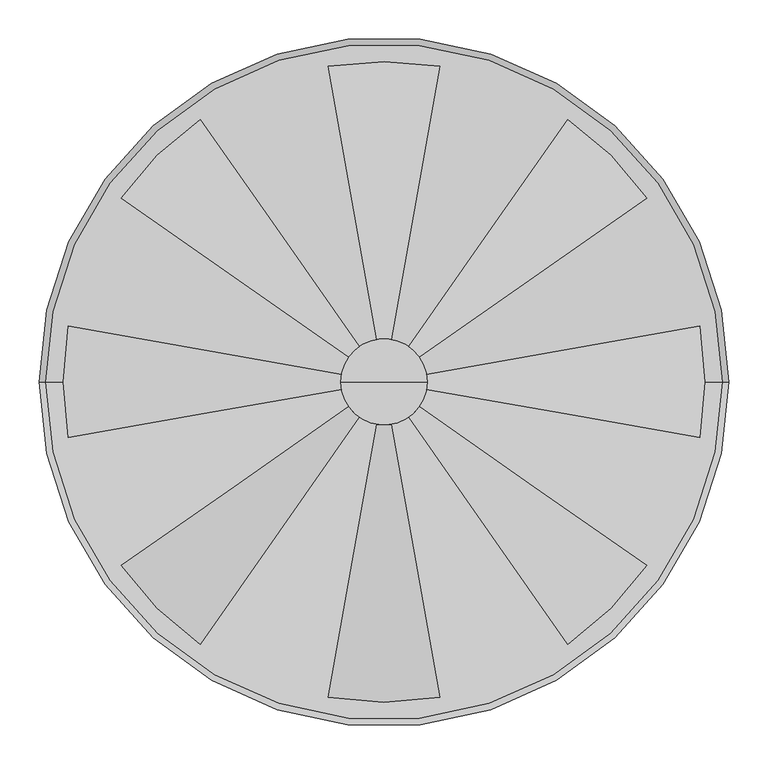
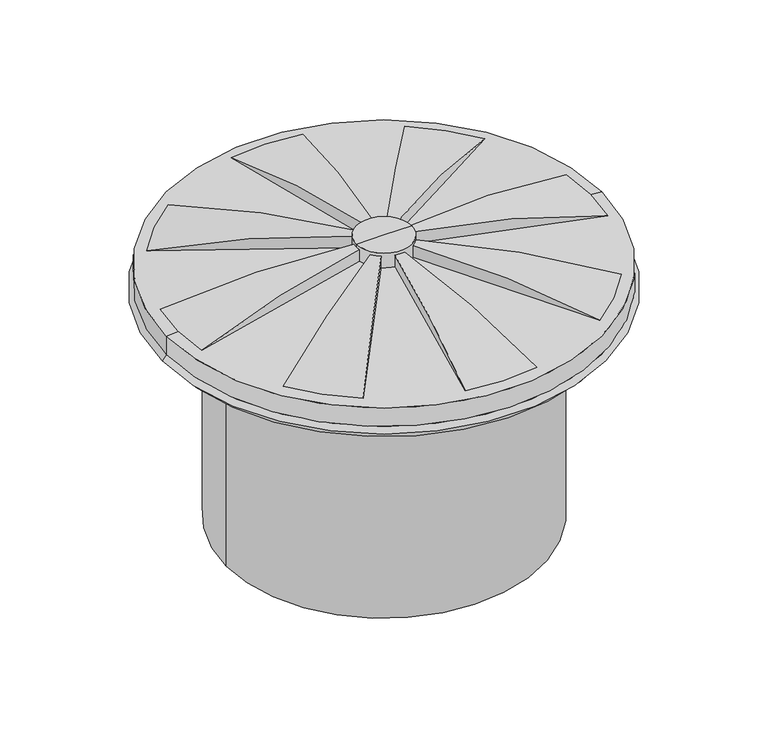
"""IFC4 building model written with IfcOpenShell, lengths in millimetres: proxy geometry, GRAF DW Tele Dome Shaft Maxi - Cover : DW Tele Dome Shaft Maxi - Cover."""

from ifc_helpers import new_model, si_unit, point, frame, origin, origin_2d, place, context, project, spatial, polyline, circle_curve, ellipse_curve, trimmed, segment, composite_curve, outline, extrude, source, transform, mapped, element, save
from ifc_brep_helpers import plane_surface, cylinder_surface, revolved_surface, advanced_brep


def specialty_equipment_90b081b5(model_context):
    return source(origin(), model_context, "Body", "SolidModel", [
        advanced_brep(
        [(0.0, 0.0, 0.0), (-12.499942, 0.0, 0.0), (12.499942, 0.0, 0.0), (-12.499942, 0.0, 29.998988), (12.499942, 0.0, 29.998988), (24.999942, 0.0, 34.998988), (-24.999942, 0.0, 34.998988), (0.0, 0.0, 52.4309306), (24.999942, 0.0, 29.998988), (-24.999942, 0.0, 29.998988)],
        [
            (0, 1),
            (1, 2, circle_curve(frame((0.0, 0.0, 0.0), z_axis=(0.0, 0.0, -1.0), x_axis=(-1.0, 0.0, 0.0)), 12.499942)),
            (2, 0),
            (2, 1, circle_curve(frame((0.0, 0.0, 0.0), z_axis=(0.0, 0.0, -1.0), x_axis=(-1.0, 0.0, 0.0)), 12.499942)),
            (1, 3),
            (3, 4, circle_curve(frame((0.0, 0.0, 29.998988), z_axis=(0.0, 0.0, -1.0), x_axis=(-1.0, 0.0, 0.0)), 12.499942)),
            (4, 2),
            (4, 3, circle_curve(frame((0.0, 0.0, 29.998988), z_axis=(0.0, 0.0, -1.0), x_axis=(-1.0, 0.0, 0.0)), 12.499942)),
            (5, 6, circle_curve(frame((0.0, 0.0, 34.998988), z_axis=(0.0, 0.0, 1.0), x_axis=(-1.0, 0.0, 0.0)), 24.999942)),
            (6, 7, circle_curve(frame((5.8e-05, 0.0, 25.7880989), z_axis=(0.0, 1.0, 0.0), x_axis=(1.0, 0.0, 0.0)), 26.6428316)),
            (7, 5, circle_curve(frame((-5.8e-05, 0.0, 25.7880989), z_axis=(0.0, 1.0, 0.0), x_axis=(-1.0, 0.0, 0.0)), 26.6428316)),
            (6, 5, circle_curve(frame((0.0, 0.0, 34.998988), z_axis=(0.0, 0.0, 1.0), x_axis=(-1.0, 0.0, 0.0)), 24.999942)),
            (8, 9, circle_curve(frame((0.0, 0.0, 29.998988), z_axis=(0.0, 0.0, 1.0), x_axis=(-1.0, 0.0, 0.0)), 24.999942)),
            (9, 6),
            (5, 8),
            (9, 8, circle_curve(frame((0.0, 0.0, 29.998988), z_axis=(0.0, 0.0, 1.0), x_axis=(-1.0, 0.0, 0.0)), 24.999942)),
            (3, 9),
            (8, 4),
        ],
        [
            plane_surface(frame((0.0, 0.0, 0.0), z_axis=(0.0, 0.0, -1.0), x_axis=(-1.0, 0.0, 0.0))),
            cylinder_surface(frame((0.0, 0.0, -10.0), z_axis=(0.0, 0.0, -1.0), x_axis=(-1.0, 0.0, 0.0)), 12.499942),
            revolved_surface(trimmed(ellipse_curve(frame((5.8e-05, 0.0, 25.7880989), z_axis=(0.0, -1.0, 0.0), x_axis=(1.0, 0.0, 0.0)), 26.6428316, 26.6428316), [point((0.0, 0.0, 52.4309306))], [point((-24.999942, 0.0, 34.998988))], True, "CARTESIAN"), (0.0, 0.0, -10.0), (0.0, 0.0, -1.0)),
            cylinder_surface(frame((0.0, 0.0, -10.0), z_axis=(0.0, 0.0, -1.0), x_axis=(-1.0, 0.0, 0.0)), 24.999942),
            plane_surface(frame((0.0, 0.0, 29.998988), z_axis=(0.0, 0.0, -1.0), x_axis=(-1.0, 0.0, 0.0))),
        ],
        [
            (0, [[1, 2, 3]]),
            (0, [[-3, 4, -1]]),
            (1, [[-2, 5, 6, 7]]),
            (1, [[-4, -7, 8, -5]]),
            (2, [[9, 10, 11]]),
            (2, [[12, -11, -10]]),
            (3, [[13, 14, -9, 15]]),
            (3, [[16, -15, -12, -14]]),
            (4, [[-6, 17, -13, 18]]),
            (4, [[-8, -18, -16, -17]]),
        ],
    ),
        extrude(outline(composite_curve([segment(trimmed(circle_curve(origin_2d(), 426.9962319), [point((-426.9962319, 0.0))], [point((426.9962319, 0.0))], False, "CARTESIAN"), True, "CONTINUOUS"), segment(trimmed(circle_curve(origin_2d(), 426.9962319), [point((426.9962319, 0.0))], [point((-426.9962319, 0.0))], False, "CARTESIAN"), True, "CONTINUOUS")], self_intersect=False), holes=[composite_curve([segment(trimmed(circle_curve(origin_2d(), 300.0), [point((-300.0, 0.0))], [point((300.0, 0.0))], True, "CARTESIAN"), True, "CONTINUOUS"), segment(trimmed(circle_curve(origin_2d(), 300.0), [point((300.0, 0.0))], [point((-300.0, 0.0))], True, "CARTESIAN"), True, "CONTINUOUS")], self_intersect=False)]), frame((0.0, 0.0, -14.9500624), z_axis=(0.0, 0.0, 1.0), x_axis=(1.0, 0.0, 0.0)), (0.0, 0.0, 1.0), 14.9500624),
        advanced_brep(
        [(0.0, 0.0, -14.9500624), (-300.0, 0.0, -14.9500624), (300.0, 0.0, -14.9500624), (300.0, 0.0, 0.0), (-300.0, 0.0, 0.0), (0.0, 0.0, 6.1740495)],
        [
            (0, 1),
            (1, 2, circle_curve(frame((0.0, 0.0, -14.9500624), z_axis=(0.0, 0.0, -1.0), x_axis=(-1.0, 0.0, 0.0)), 300.0)),
            (2, 0),
            (2, 1, circle_curve(frame((0.0, 0.0, -14.9500624), z_axis=(0.0, 0.0, -1.0), x_axis=(-1.0, 0.0, 0.0)), 300.0)),
            (3, 4, circle_curve(frame((0.0, 0.0, 0.0), z_axis=(0.0, 0.0, 1.0), x_axis=(-1.0, 0.0, 0.0)), 300.0)),
            (4, 5, circle_curve(frame((0.0, 0.0, -7285.4842816), z_axis=(0.0, 1.0, 0.0), x_axis=(1.0, 0.0, 0.0)), 7291.6583311)),
            (5, 3, circle_curve(frame((0.0, 0.0, -7285.4842816), z_axis=(0.0, 1.0, 0.0), x_axis=(-1.0, 0.0, 0.0)), 7291.6583311)),
            (4, 3, circle_curve(frame((0.0, 0.0, 0.0), z_axis=(0.0, 0.0, 1.0), x_axis=(-1.0, 0.0, 0.0)), 300.0)),
            (1, 4),
            (3, 2),
        ],
        [
            plane_surface(frame((0.0, 0.0, -14.9500624), z_axis=(0.0, 0.0, -1.0), x_axis=(-1.0, 0.0, 0.0))),
            revolved_surface(trimmed(ellipse_curve(frame((0.0, 0.0, -7285.4842816), z_axis=(0.0, -1.0, 0.0), x_axis=(1.0, 0.0, 0.0)), 7291.6583311, 7291.6583311), [point((0.0, 0.0, 6.1740495))], [point((-300.0, 0.0, 0.0))], True, "CARTESIAN"), (0.0, 0.0, -119.9500624), (0.0, 0.0, -1.0)),
            cylinder_surface(frame((0.0, 0.0, -119.9500624), z_axis=(0.0, 0.0, -1.0), x_axis=(-1.0, 0.0, 0.0)), 300.0),
        ],
        [
            (0, [[1, 2, 3]]),
            (0, [[-3, 4, -1]]),
            (1, [[5, 6, 7]]),
            (1, [[8, -7, -6]]),
            (2, [[-2, 9, -5, 10]]),
            (2, [[-4, -10, -8, -9]]),
        ],
    ),
        extrude(outline(composite_curve([segment(trimmed(circle_curve(origin_2d(), 313.0), [point((-313.0, 0.0))], [point((313.0, 0.0))], False, "CARTESIAN"), True, "CONTINUOUS"), segment(trimmed(circle_curve(origin_2d(), 313.0), [point((313.0, 0.0))], [point((-313.0, 0.0))], False, "CARTESIAN"), True, "CONTINUOUS")], self_intersect=False), holes=[composite_curve([segment(trimmed(circle_curve(origin_2d(), 300.0), [point((-300.0, 0.0))], [point((300.0, 0.0))], True, "CARTESIAN"), True, "CONTINUOUS"), segment(trimmed(circle_curve(origin_2d(), 300.0), [point((300.0, 0.0))], [point((-300.0, 0.0))], True, "CARTESIAN"), True, "CONTINUOUS")], self_intersect=False)]), frame((0.0, 0.0, -476.0), z_axis=(0.0, 0.0, 1.0), x_axis=(1.0, 0.0, 0.0)), (0.0, 0.0, 1.0), 461.0499376),
        advanced_brep(
        [(45.1316622, -31.6015301, 79.4947783), (45.1316622, -31.6015301, 103.3727596), (335.3019968, -234.7809858, 51.9853867), (31.6015301, -45.1316622, 79.4947783), (234.7809858, -335.3019968, 51.9853867), (31.6015301, -45.1316622, 103.3727596)],
        [
            (0, 1),
            (1, 2, circle_curve(frame((0.896195, -0.6275225, -1515.5033528), z_axis=(0.5735764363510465, 0.8191520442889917, 0.0), x_axis=(-0.8191520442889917, 0.5735764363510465, 0.0)), 1619.776538)),
            (2, 0, circle_curve(frame((0.0, 0.0, -2924.4026827), z_axis=(-0.5735764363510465, -0.8191520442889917, 0.0), x_axis=(-0.8191520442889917, 0.5735764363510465, 0.0)), 3004.4026827)),
            (3, 4, circle_curve(frame((0.0, 0.0, -2924.4026827), z_axis=(0.819152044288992, 0.5735764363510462, 0.0), x_axis=(-0.5735764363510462, 0.819152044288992, 0.0)), 3004.4026827)),
            (4, 5, circle_curve(frame((0.6275225, -0.896195, -1515.5033528), z_axis=(-0.819152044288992, -0.5735764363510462, 0.0), x_axis=(-0.5735764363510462, 0.819152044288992, 0.0)), 1619.776538)),
            (5, 3),
            (5, 1, circle_curve(frame((0.0, 0.0, 103.3727596), z_axis=(0.0, 0.0, 1.0), x_axis=(0.8191520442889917, -0.5735764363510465, 0.0)), 55.0955863)),
            (0, 3, circle_curve(frame((0.0, 0.0, 79.4947783), z_axis=(0.0, 0.0, -1.0), x_axis=(0.8191520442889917, -0.5735764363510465, 0.0)), 55.0955863)),
            (2, 4, circle_curve(frame((0.0, 0.0, 51.9853867), z_axis=(0.0, 0.0, -1.0), x_axis=(0.8191520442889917, -0.5735764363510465, 0.0)), 409.3281573)),
        ],
        [
            plane_surface(frame((0.0, 0.0, 180.0), z_axis=(0.5735764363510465, 0.8191520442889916, 0.0), x_axis=(0.8191520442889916, -0.5735764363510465, 0.0))),
            plane_surface(frame((0.0, 0.0, 180.0), z_axis=(-0.8191520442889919, -0.573576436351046, 0.0), x_axis=(0.573576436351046, -0.8191520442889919, 0.0))),
            revolved_surface(polyline([(45.131662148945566, -31.60153004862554, 79.4947783), (45.131662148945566, -31.60153004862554, 103.3727596)]), (0.0, 0.0, 180.0), (0.0, 0.0, -1.0)),
            revolved_surface(trimmed(ellipse_curve(frame((0.0, 0.0, -2924.4026827), z_axis=(-0.5735764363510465, -0.8191520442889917, 0.0), x_axis=(-0.8191520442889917, 0.5735764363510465, 0.0)), 3004.4026827, 3004.4026827), [point((335.3019968, -234.7809858, 51.9853867))], [point((45.1316622, -31.6015301, 79.4947783))], True, "CARTESIAN"), (0.0, 0.0, 180.0), (0.0, 0.0, -1.0)),
            revolved_surface(trimmed(ellipse_curve(frame((0.896195, -0.6275225, -1515.5033528), z_axis=(0.5735764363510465, 0.8191520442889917, 0.0), x_axis=(-0.8191520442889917, 0.5735764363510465, 0.0)), 1619.776538, 1619.776538), [point((45.1316622, -31.6015301, 103.3727596))], [point((335.3019968, -234.7809858, 51.9853867))], True, "CARTESIAN"), (0.0, 0.0, 180.0), (0.0, 0.0, -1.0)),
        ],
        [
            (0, [[1, 2, 3]]),
            (1, [[4, 5, 6]]),
            (2, [[7, -1, 8, -6]]),
            (3, [[-8, -3, 9, -4]]),
            (4, [[-9, -2, -7, -5]]),
        ],
    ),
        advanced_brep(
        [(-31.6015301, 45.1316622, 79.4947783), (-234.7809858, 335.3019968, 51.9853867), (-31.6015301, 45.1316622, 103.3727596), (-45.1316622, 31.6015301, 79.4947783), (-45.1316622, 31.6015301, 103.3727596), (-335.3019968, 234.7809858, 51.9853867)],
        [
            (0, 1, circle_curve(frame((0.0, 0.0, -2924.4026827), z_axis=(-0.8191520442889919, -0.5735764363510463, 0.0), x_axis=(0.5735764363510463, -0.8191520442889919, 0.0)), 3004.4026827)),
            (1, 2, circle_curve(frame((-0.6275225, 0.896195, -1515.5033528), z_axis=(0.8191520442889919, 0.5735764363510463, 0.0), x_axis=(0.5735764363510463, -0.8191520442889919, 0.0)), 1619.776538)),
            (2, 0),
            (3, 4),
            (4, 5, circle_curve(frame((-0.896195, 0.6275225, -1515.5033528), z_axis=(-0.5735764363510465, -0.8191520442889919, 0.0), x_axis=(0.8191520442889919, -0.5735764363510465, 0.0)), 1619.776538)),
            (5, 3, circle_curve(frame((0.0, 0.0, -2924.4026827), z_axis=(0.5735764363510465, 0.8191520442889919, 0.0), x_axis=(0.8191520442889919, -0.5735764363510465, 0.0)), 3004.4026827)),
            (3, 0, circle_curve(frame((0.0, 0.0, 79.4947783), z_axis=(0.0, 0.0, -1.0), x_axis=(-0.5735764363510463, 0.8191520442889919, 0.0)), 55.0955863)),
            (2, 4, circle_curve(frame((0.0, 0.0, 103.3727596), z_axis=(0.0, 0.0, 1.0), x_axis=(-0.5735764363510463, 0.8191520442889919, 0.0)), 55.0955863)),
            (5, 1, circle_curve(frame((0.0, 0.0, 51.9853867), z_axis=(0.0, 0.0, -1.0), x_axis=(-0.5735764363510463, 0.8191520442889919, 0.0)), 409.3281573)),
        ],
        [
            plane_surface(frame((0.0, 0.0, 180.0), z_axis=(0.8191520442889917, 0.5735764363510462, 0.0), x_axis=(-0.5735764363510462, 0.8191520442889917, 0.0))),
            plane_surface(frame((0.0, 0.0, 180.0), z_axis=(-0.5735764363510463, -0.8191520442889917, 0.0), x_axis=(-0.8191520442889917, 0.5735764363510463, 0.0))),
            revolved_surface(polyline([(-31.601530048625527, 45.13166214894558, 103.3727596), (-31.601530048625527, 45.13166214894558, 79.4947783)]), (0.0, 0.0, 180.0), (0.0, 0.0, 1.0)),
            revolved_surface(trimmed(ellipse_curve(frame((0.0, 0.0, -2924.4026827), z_axis=(-0.8191520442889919, -0.5735764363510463, 0.0), x_axis=(0.5735764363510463, -0.8191520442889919, 0.0)), 3004.4026827, 3004.4026827), [point((-31.6015301, 45.1316622, 79.4947783))], [point((-234.7809858, 335.3019968, 51.9853867))], True, "CARTESIAN"), (0.0, 0.0, 180.0), (0.0, 0.0, 1.0)),
            revolved_surface(trimmed(ellipse_curve(frame((-0.6275225, 0.896195, -1515.5033528), z_axis=(0.8191520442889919, 0.5735764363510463, 0.0), x_axis=(0.5735764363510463, -0.8191520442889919, 0.0)), 1619.776538, 1619.776538), [point((-234.7809858, 335.3019968, 51.9853867))], [point((-31.6015301, 45.1316622, 103.3727596))], True, "CARTESIAN"), (0.0, 0.0, 180.0), (0.0, 0.0, 1.0)),
        ],
        [
            (0, [[1, 2, 3]]),
            (1, [[4, 5, 6]]),
            (2, [[7, -3, 8, -4]]),
            (3, [[9, -1, -7, -6]]),
            (4, [[-8, -2, -9, -5]]),
        ],
    ),
        advanced_brep(
        [(-45.1316622, -31.6015301, 79.4947783), (-335.3019968, -234.7809858, 51.9853867), (-45.1316622, -31.6015301, 103.3727596), (-31.6015301, -45.1316622, 79.4947783), (-31.6015301, -45.1316622, 103.3727596), (-234.7809858, -335.3019968, 51.9853867)],
        [
            (0, 1, circle_curve(frame((0.0, 0.0, -2924.4026827), z_axis=(0.5735764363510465, -0.8191520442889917, 0.0), x_axis=(0.8191520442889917, 0.5735764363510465, 0.0)), 3004.4026827)),
            (1, 2, circle_curve(frame((-0.896195, -0.6275225, -1515.5033528), z_axis=(-0.5735764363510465, 0.8191520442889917, 0.0), x_axis=(0.8191520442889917, 0.5735764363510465, 0.0)), 1619.776538)),
            (2, 0),
            (3, 4),
            (4, 5, circle_curve(frame((-0.6275225, -0.896195, -1515.5033528), z_axis=(0.819152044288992, -0.5735764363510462, 0.0), x_axis=(0.5735764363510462, 0.819152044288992, 0.0)), 1619.776538)),
            (5, 3, circle_curve(frame((0.0, 0.0, -2924.4026827), z_axis=(-0.819152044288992, 0.5735764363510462, 0.0), x_axis=(0.5735764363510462, 0.819152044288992, 0.0)), 3004.4026827)),
            (3, 0, circle_curve(frame((0.0, 0.0, 79.4947783), z_axis=(0.0, 0.0, -1.0), x_axis=(-0.8191520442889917, -0.5735764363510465, 0.0)), 55.0955863)),
            (2, 4, circle_curve(frame((0.0, 0.0, 103.3727596), z_axis=(0.0, 0.0, 1.0), x_axis=(-0.8191520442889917, -0.5735764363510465, 0.0)), 55.0955863)),
            (5, 1, circle_curve(frame((0.0, 0.0, 51.9853867), z_axis=(0.0, 0.0, -1.0), x_axis=(-0.8191520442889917, -0.5735764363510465, 0.0)), 409.3281573)),
        ],
        [
            plane_surface(frame((0.0, 0.0, 180.0), z_axis=(-0.5735764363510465, 0.8191520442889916, 0.0), x_axis=(-0.8191520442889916, -0.5735764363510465, 0.0))),
            plane_surface(frame((0.0, 0.0, 180.0), z_axis=(0.8191520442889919, -0.573576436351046, 0.0), x_axis=(-0.573576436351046, -0.8191520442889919, 0.0))),
            revolved_surface(polyline([(-45.131662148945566, -31.60153004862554, 103.3727596), (-45.131662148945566, -31.60153004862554, 79.4947783)]), (0.0, 0.0, 180.0), (0.0, 0.0, 1.0)),
            revolved_surface(trimmed(ellipse_curve(frame((0.0, 0.0, -2924.4026827), z_axis=(0.5735764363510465, -0.8191520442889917, 0.0), x_axis=(0.8191520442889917, 0.5735764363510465, 0.0)), 3004.4026827, 3004.4026827), [point((-45.1316622, -31.6015301, 79.4947783))], [point((-335.3019968, -234.7809858, 51.9853867))], True, "CARTESIAN"), (0.0, 0.0, 180.0), (0.0, 0.0, 1.0)),
            revolved_surface(trimmed(ellipse_curve(frame((-0.896195, -0.6275225, -1515.5033528), z_axis=(-0.5735764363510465, 0.8191520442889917, 0.0), x_axis=(0.8191520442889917, 0.5735764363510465, 0.0)), 1619.776538, 1619.776538), [point((-335.3019968, -234.7809858, 51.9853867))], [point((-45.1316622, -31.6015301, 103.3727596))], True, "CARTESIAN"), (0.0, 0.0, 180.0), (0.0, 0.0, 1.0)),
        ],
        [
            (0, [[1, 2, 3]]),
            (1, [[4, 5, 6]]),
            (2, [[7, -3, 8, -4]]),
            (3, [[9, -1, -7, -6]]),
            (4, [[-8, -2, -9, -5]]),
        ],
    ),
        advanced_brep(
        [(31.6015301, 45.1316622, 79.4947783), (31.6015301, 45.1316622, 103.3727596), (234.7809858, 335.3019968, 51.9853867), (45.1316622, 31.6015301, 79.4947783), (335.3019968, 234.7809858, 51.9853867), (45.1316622, 31.6015301, 103.3727596)],
        [
            (0, 1),
            (1, 2, circle_curve(frame((0.6275225, 0.896195, -1515.5033528), z_axis=(-0.8191520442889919, 0.5735764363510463, 0.0), x_axis=(-0.5735764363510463, -0.8191520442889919, 0.0)), 1619.776538)),
            (2, 0, circle_curve(frame((0.0, 0.0, -2924.4026827), z_axis=(0.8191520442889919, -0.5735764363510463, 0.0), x_axis=(-0.5735764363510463, -0.8191520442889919, 0.0)), 3004.4026827)),
            (3, 4, circle_curve(frame((0.0, 0.0, -2924.4026827), z_axis=(-0.5735764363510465, 0.8191520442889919, 0.0), x_axis=(-0.8191520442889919, -0.5735764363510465, 0.0)), 3004.4026827)),
            (4, 5, circle_curve(frame((0.896195, 0.6275225, -1515.5033528), z_axis=(0.5735764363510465, -0.8191520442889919, 0.0), x_axis=(-0.8191520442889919, -0.5735764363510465, 0.0)), 1619.776538)),
            (5, 3),
            (5, 1, circle_curve(frame((0.0, 0.0, 103.3727596), z_axis=(0.0, 0.0, 1.0), x_axis=(0.5735764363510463, 0.8191520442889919, 0.0)), 55.0955863)),
            (0, 3, circle_curve(frame((0.0, 0.0, 79.4947783), z_axis=(0.0, 0.0, -1.0), x_axis=(0.5735764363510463, 0.8191520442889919, 0.0)), 55.0955863)),
            (2, 4, circle_curve(frame((0.0, 0.0, 51.9853867), z_axis=(0.0, 0.0, -1.0), x_axis=(0.5735764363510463, 0.8191520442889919, 0.0)), 409.3281573)),
        ],
        [
            plane_surface(frame((0.0, 0.0, 180.0), z_axis=(-0.8191520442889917, 0.5735764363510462, 0.0), x_axis=(0.5735764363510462, 0.8191520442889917, 0.0))),
            plane_surface(frame((0.0, 0.0, 180.0), z_axis=(0.5735764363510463, -0.8191520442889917, 0.0), x_axis=(0.8191520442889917, 0.5735764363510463, 0.0))),
            revolved_surface(polyline([(31.601530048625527, 45.13166214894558, 79.4947783), (31.601530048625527, 45.13166214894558, 103.3727596)]), (0.0, 0.0, 180.0), (0.0, 0.0, -1.0)),
            revolved_surface(trimmed(ellipse_curve(frame((0.0, 0.0, -2924.4026827), z_axis=(0.8191520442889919, -0.5735764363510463, 0.0), x_axis=(-0.5735764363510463, -0.8191520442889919, 0.0)), 3004.4026827, 3004.4026827), [point((234.7809858, 335.3019968, 51.9853867))], [point((31.6015301, 45.1316622, 79.4947783))], True, "CARTESIAN"), (0.0, 0.0, 180.0), (0.0, 0.0, -1.0)),
            revolved_surface(trimmed(ellipse_curve(frame((0.6275225, 0.896195, -1515.5033528), z_axis=(-0.8191520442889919, 0.5735764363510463, 0.0), x_axis=(-0.5735764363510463, -0.8191520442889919, 0.0)), 1619.776538, 1619.776538), [point((31.6015301, 45.1316622, 103.3727596))], [point((234.7809858, 335.3019968, 51.9853867))], True, "CARTESIAN"), (0.0, 0.0, 180.0), (0.0, 0.0, -1.0)),
        ],
        [
            (0, [[1, 2, 3]]),
            (1, [[4, 5, 6]]),
            (2, [[7, -1, 8, -6]]),
            (3, [[-8, -3, 9, -4]]),
            (4, [[-9, -2, -7, -5]]),
        ],
    ),
        advanced_brep(
        [(-9.5672482, -54.2585606, 79.4947783), (-71.0790886, -403.1095428, 51.9853867), (-9.5672482, -54.2585606, 103.3727596), (9.5672482, -54.2585606, 79.4947783), (9.5672482, -54.2585606, 103.3727596), (71.0790886, -403.1095428, 51.9853867)],
        [
            (0, 1, circle_curve(frame((0.0, 0.0, -2924.4026827), z_axis=(0.984807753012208, -0.1736481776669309, 0.0), x_axis=(0.1736481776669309, 0.984807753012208, 0.0)), 3004.4026827)),
            (1, 2, circle_curve(frame((-0.1899802, -1.077431, -1515.5033528), z_axis=(-0.984807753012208, 0.1736481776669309, 0.0), x_axis=(0.1736481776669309, 0.984807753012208, 0.0)), 1619.776538)),
            (2, 0),
            (3, 4),
            (4, 5, circle_curve(frame((0.1899802, -1.077431, -1515.5033528), z_axis=(0.9848077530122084, 0.17364817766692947, 0.0), x_axis=(-0.17364817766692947, 0.9848077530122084, 0.0)), 1619.776538)),
            (5, 3, circle_curve(frame((0.0, 0.0, -2924.4026827), z_axis=(-0.9848077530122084, -0.17364817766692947, 0.0), x_axis=(-0.17364817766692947, 0.9848077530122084, 0.0)), 3004.4026827)),
            (3, 0, circle_curve(frame((0.0, 0.0, 79.4947783), z_axis=(0.0, 0.0, -1.0), x_axis=(-0.1736481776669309, -0.984807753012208, 0.0)), 55.0955863)),
            (2, 4, circle_curve(frame((0.0, 0.0, 103.3727596), z_axis=(0.0, 0.0, 1.0), x_axis=(-0.1736481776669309, -0.984807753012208, 0.0)), 55.0955863)),
            (5, 1, circle_curve(frame((0.0, 0.0, 51.9853867), z_axis=(0.0, 0.0, -1.0), x_axis=(-0.1736481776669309, -0.984807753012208, 0.0)), 409.3281573)),
        ],
        [
            plane_surface(frame((0.0, 0.0, 180.0), z_axis=(-0.984807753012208, 0.1736481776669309, 0.0), x_axis=(-0.1736481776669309, -0.984807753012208, 0.0))),
            plane_surface(frame((0.0, 0.0, 180.0), z_axis=(0.9848077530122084, 0.17364817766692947, 0.0), x_axis=(0.17364817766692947, -0.9848077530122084, 0.0))),
            revolved_surface(polyline([(-9.567248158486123, -54.258560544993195, 103.3727596), (-9.567248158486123, -54.258560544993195, 79.4947783)]), (0.0, 0.0, 180.0), (0.0, 0.0, 1.0)),
            revolved_surface(trimmed(ellipse_curve(frame((0.0, 0.0, -2924.4026827), z_axis=(0.984807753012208, -0.1736481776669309, 0.0), x_axis=(0.1736481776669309, 0.984807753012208, 0.0)), 3004.4026827, 3004.4026827), [point((-9.5672482, -54.2585606, 79.4947783))], [point((-71.0790886, -403.1095428, 51.9853867))], True, "CARTESIAN"), (0.0, 0.0, 180.0), (0.0, 0.0, 1.0)),
            revolved_surface(trimmed(ellipse_curve(frame((-0.1899802, -1.077431, -1515.5033528), z_axis=(-0.984807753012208, 0.1736481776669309, 0.0), x_axis=(0.1736481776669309, 0.984807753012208, 0.0)), 1619.776538, 1619.776538), [point((-71.0790886, -403.1095428, 51.9853867))], [point((-9.5672482, -54.2585606, 103.3727596))], True, "CARTESIAN"), (0.0, 0.0, 180.0), (0.0, 0.0, 1.0)),
        ],
        [
            (0, [[1, 2, 3]]),
            (1, [[4, 5, 6]]),
            (2, [[7, -3, 8, -4]]),
            (3, [[9, -1, -7, -6]]),
            (4, [[-8, -2, -9, -5]]),
        ],
    ),
        advanced_brep(
        [(-9.5672482, 54.2585606, 79.4947783), (-9.5672482, 54.2585606, 103.3727596), (-71.0790886, 403.1095428, 51.9853867), (9.5672482, 54.2585606, 79.4947783), (71.0790886, 403.1095428, 51.9853867), (9.5672482, 54.2585606, 103.3727596)],
        [
            (0, 1),
            (1, 2, circle_curve(frame((-0.1899802, 1.077431, -1515.5033528), z_axis=(-0.9848077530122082, -0.17364817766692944, 0.0), x_axis=(0.17364817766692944, -0.9848077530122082, 0.0)), 1619.776538)),
            (2, 0, circle_curve(frame((0.0, 0.0, -2924.4026827), z_axis=(0.9848077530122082, 0.17364817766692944, 0.0), x_axis=(0.17364817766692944, -0.9848077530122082, 0.0)), 3004.4026827)),
            (3, 4, circle_curve(frame((0.0, 0.0, -2924.4026827), z_axis=(-0.984807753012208, 0.1736481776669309, 0.0), x_axis=(-0.1736481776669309, -0.984807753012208, 0.0)), 3004.4026827)),
            (4, 5, circle_curve(frame((0.1899802, 1.077431, -1515.5033528), z_axis=(0.984807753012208, -0.1736481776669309, 0.0), x_axis=(-0.1736481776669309, -0.984807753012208, 0.0)), 1619.776538)),
            (5, 3),
            (5, 1, circle_curve(frame((0.0, 0.0, 103.3727596), z_axis=(0.0, 0.0, 1.0), x_axis=(-0.17364817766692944, 0.9848077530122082, 0.0)), 55.0955863)),
            (0, 3, circle_curve(frame((0.0, 0.0, 79.4947783), z_axis=(0.0, 0.0, -1.0), x_axis=(-0.17364817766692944, 0.9848077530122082, 0.0)), 55.0955863)),
            (2, 4, circle_curve(frame((0.0, 0.0, 51.9853867), z_axis=(0.0, 0.0, -1.0), x_axis=(-0.17364817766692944, 0.9848077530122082, 0.0)), 409.3281573)),
        ],
        [
            plane_surface(frame((0.0, 0.0, 180.0), z_axis=(-0.9848077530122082, -0.17364817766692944, 0.0), x_axis=(-0.17364817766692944, 0.9848077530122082, 0.0))),
            plane_surface(frame((0.0, 0.0, 180.0), z_axis=(0.984807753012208, -0.1736481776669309, 0.0), x_axis=(0.1736481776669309, 0.984807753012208, 0.0))),
            revolved_surface(polyline([(-9.567248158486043, 54.2585605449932, 79.4947783), (-9.567248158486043, 54.2585605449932, 103.3727596)]), (0.0, 0.0, 180.0), (0.0, 0.0, -1.0)),
            revolved_surface(trimmed(ellipse_curve(frame((0.0, 0.0, -2924.4026827), z_axis=(0.9848077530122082, 0.17364817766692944, 0.0), x_axis=(0.17364817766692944, -0.9848077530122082, 0.0)), 3004.4026827, 3004.4026827), [point((-71.0790886, 403.1095428, 51.9853867))], [point((-9.5672482, 54.2585606, 79.4947783))], True, "CARTESIAN"), (0.0, 0.0, 180.0), (0.0, 0.0, -1.0)),
            revolved_surface(trimmed(ellipse_curve(frame((-0.1899802, 1.077431, -1515.5033528), z_axis=(-0.9848077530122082, -0.17364817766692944, 0.0), x_axis=(0.17364817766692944, -0.9848077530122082, 0.0)), 1619.776538, 1619.776538), [point((-9.5672482, 54.2585606, 103.3727596))], [point((-71.0790886, 403.1095428, 51.9853867))], True, "CARTESIAN"), (0.0, 0.0, 180.0), (0.0, 0.0, -1.0)),
        ],
        [
            (0, [[1, 2, 3]]),
            (1, [[4, 5, 6]]),
            (2, [[7, -1, 8, -6]]),
            (3, [[-8, -3, 9, -4]]),
            (4, [[-9, -2, -7, -5]]),
        ],
    ),
        advanced_brep(
        [(54.2585606, -9.5672482, 79.4947783), (403.1095428, -71.0790886, 51.9853867), (54.2585606, -9.5672482, 103.3727596), (54.2585606, 9.5672482, 79.4947783), (54.2585606, 9.5672482, 103.3727596), (403.1095428, 71.0790886, 51.9853867)],
        [
            (0, 1, circle_curve(frame((0.0, 0.0, -2924.4026827), z_axis=(0.17364817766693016, 0.9848077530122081, 0.0), x_axis=(-0.9848077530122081, 0.17364817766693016, 0.0)), 3004.4026827)),
            (1, 2, circle_curve(frame((1.077431, -0.1899802, -1515.5033528), z_axis=(-0.17364817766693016, -0.9848077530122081, 0.0), x_axis=(-0.9848077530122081, 0.17364817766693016, 0.0)), 1619.776538)),
            (2, 0),
            (3, 4),
            (4, 5, circle_curve(frame((1.077431, 0.1899802, -1515.5033528), z_axis=(-0.1736481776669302, 0.9848077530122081, 0.0), x_axis=(-0.9848077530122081, -0.1736481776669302, 0.0)), 1619.776538)),
            (5, 3, circle_curve(frame((0.0, 0.0, -2924.4026827), z_axis=(0.1736481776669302, -0.9848077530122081, 0.0), x_axis=(-0.9848077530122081, -0.1736481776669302, 0.0)), 3004.4026827)),
            (3, 0, circle_curve(frame((0.0, 0.0, 79.4947783), z_axis=(0.0, 0.0, -1.0), x_axis=(0.9848077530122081, -0.17364817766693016, 0.0)), 55.0955863)),
            (2, 4, circle_curve(frame((0.0, 0.0, 103.3727596), z_axis=(0.0, 0.0, 1.0), x_axis=(0.9848077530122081, -0.17364817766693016, 0.0)), 55.0955863)),
            (5, 1, circle_curve(frame((0.0, 0.0, 51.9853867), z_axis=(0.0, 0.0, -1.0), x_axis=(0.9848077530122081, -0.17364817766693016, 0.0)), 409.3281573)),
        ],
        [
            plane_surface(frame((0.0, 0.0, 180.0), z_axis=(-0.17364817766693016, -0.9848077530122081, 0.0), x_axis=(0.9848077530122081, -0.17364817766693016, 0.0))),
            plane_surface(frame((0.0, 0.0, 180.0), z_axis=(-0.1736481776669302, 0.9848077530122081, 0.0), x_axis=(0.9848077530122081, 0.1736481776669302, 0.0))),
            revolved_surface(polyline([(54.2585605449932, -9.567248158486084, 103.3727596), (54.2585605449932, -9.567248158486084, 79.4947783)]), (0.0, 0.0, 180.0), (0.0, 0.0, 1.0)),
            revolved_surface(trimmed(ellipse_curve(frame((0.0, 0.0, -2924.4026827), z_axis=(0.17364817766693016, 0.9848077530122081, 0.0), x_axis=(-0.9848077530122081, 0.17364817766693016, 0.0)), 3004.4026827, 3004.4026827), [point((54.2585606, -9.5672482, 79.4947783))], [point((403.1095428, -71.0790886, 51.9853867))], True, "CARTESIAN"), (0.0, 0.0, 180.0), (0.0, 0.0, 1.0)),
            revolved_surface(trimmed(ellipse_curve(frame((1.077431, -0.1899802, -1515.5033528), z_axis=(-0.17364817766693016, -0.9848077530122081, 0.0), x_axis=(-0.9848077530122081, 0.17364817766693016, 0.0)), 1619.776538, 1619.776538), [point((403.1095428, -71.0790886, 51.9853867))], [point((54.2585606, -9.5672482, 103.3727596))], True, "CARTESIAN"), (0.0, 0.0, 180.0), (0.0, 0.0, 1.0)),
        ],
        [
            (0, [[1, 2, 3]]),
            (1, [[4, 5, 6]]),
            (2, [[7, -3, 8, -4]]),
            (3, [[9, -1, -7, -6]]),
            (4, [[-8, -2, -9, -5]]),
        ],
    ),
        advanced_brep(
        [(-54.2585606, -9.5672482, 79.4947783), (-54.2585606, -9.5672482, 103.3727596), (-403.1095428, -71.0790886, 51.9853867), (-54.2585606, 9.5672482, 79.4947783), (-403.1095428, 71.0790886, 51.9853867), (-54.2585606, 9.5672482, 103.3727596)],
        [
            (0, 1),
            (1, 2, circle_curve(frame((-1.077431, -0.1899802, -1515.5033528), z_axis=(0.17364817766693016, -0.9848077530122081, 0.0), x_axis=(0.9848077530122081, 0.17364817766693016, 0.0)), 1619.776538)),
            (2, 0, circle_curve(frame((0.0, 0.0, -2924.4026827), z_axis=(-0.17364817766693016, 0.9848077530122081, 0.0), x_axis=(0.9848077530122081, 0.17364817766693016, 0.0)), 3004.4026827)),
            (3, 4, circle_curve(frame((0.0, 0.0, -2924.4026827), z_axis=(-0.1736481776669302, -0.9848077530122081, 0.0), x_axis=(0.9848077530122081, -0.1736481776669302, 0.0)), 3004.4026827)),
            (4, 5, circle_curve(frame((-1.077431, 0.1899802, -1515.5033528), z_axis=(0.1736481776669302, 0.9848077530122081, 0.0), x_axis=(0.9848077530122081, -0.1736481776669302, 0.0)), 1619.776538)),
            (5, 3),
            (5, 1, circle_curve(frame((0.0, 0.0, 103.3727596), z_axis=(0.0, 0.0, 1.0), x_axis=(-0.9848077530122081, -0.17364817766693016, 0.0)), 55.0955863)),
            (0, 3, circle_curve(frame((0.0, 0.0, 79.4947783), z_axis=(0.0, 0.0, -1.0), x_axis=(-0.9848077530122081, -0.17364817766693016, 0.0)), 55.0955863)),
            (2, 4, circle_curve(frame((0.0, 0.0, 51.9853867), z_axis=(0.0, 0.0, -1.0), x_axis=(-0.9848077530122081, -0.17364817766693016, 0.0)), 409.3281573)),
        ],
        [
            plane_surface(frame((0.0, 0.0, 180.0), z_axis=(0.17364817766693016, -0.9848077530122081, 0.0), x_axis=(-0.9848077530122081, -0.17364817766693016, 0.0))),
            plane_surface(frame((0.0, 0.0, 180.0), z_axis=(0.1736481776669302, 0.9848077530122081, 0.0), x_axis=(-0.9848077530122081, 0.1736481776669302, 0.0))),
            revolved_surface(polyline([(-54.2585605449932, -9.567248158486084, 79.4947783), (-54.2585605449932, -9.567248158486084, 103.3727596)]), (0.0, 0.0, 180.0), (0.0, 0.0, -1.0)),
            revolved_surface(trimmed(ellipse_curve(frame((0.0, 0.0, -2924.4026827), z_axis=(-0.17364817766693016, 0.9848077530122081, 0.0), x_axis=(0.9848077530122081, 0.17364817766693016, 0.0)), 3004.4026827, 3004.4026827), [point((-403.1095428, -71.0790886, 51.9853867))], [point((-54.2585606, -9.5672482, 79.4947783))], True, "CARTESIAN"), (0.0, 0.0, 180.0), (0.0, 0.0, -1.0)),
            revolved_surface(trimmed(ellipse_curve(frame((-1.077431, -0.1899802, -1515.5033528), z_axis=(0.17364817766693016, -0.9848077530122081, 0.0), x_axis=(0.9848077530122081, 0.17364817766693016, 0.0)), 1619.776538, 1619.776538), [point((-54.2585606, -9.5672482, 103.3727596))], [point((-403.1095428, -71.0790886, 51.9853867))], True, "CARTESIAN"), (0.0, 0.0, 180.0), (0.0, 0.0, -1.0)),
        ],
        [
            (0, [[1, 2, 3]]),
            (1, [[4, 5, 6]]),
            (2, [[7, -1, 8, -6]]),
            (3, [[-8, -3, 9, -4]]),
            (4, [[-9, -2, -7, -5]]),
        ],
    ),
        advanced_brep(
        [(440.3909261, 0.0, 0.0), (-440.3909261, 0.0, 0.0), (-431.999762, 0.0, 10.0002), (431.999762, 0.0, 10.0002), (426.9962319, 0.0, 0.0), (-426.9962319, 0.0, 0.0), (55.0, 0.0, 110.0), (-55.0, 0.0, 110.0), (0.0, 0.0, 110.0), (55.0, 0.0, 79.49653), (-55.0, 0.0, 79.49653), (431.999762, 0.0, 48.7793981), (-431.999762, 0.0, 48.7793981), (426.9962319, 0.0, 44.4507443), (-426.9962319, 0.0, 44.4507443), (0.0, 0.0, 75.0)],
        [
            (0, 1, circle_curve(frame((0.0, 0.0, 0.0), z_axis=(0.0, 0.0, 1.0), x_axis=(-1.0, 0.0, 0.0)), 440.3909261)),
            (1, 2),
            (2, 3, circle_curve(frame((0.0, 0.0, 10.0002), z_axis=(0.0, 0.0, -1.0), x_axis=(-1.0, 0.0, 0.0)), 431.999762)),
            (3, 0),
            (1, 0, circle_curve(frame((0.0, 0.0, 0.0), z_axis=(0.0, 0.0, 1.0), x_axis=(-1.0, 0.0, 0.0)), 440.3909261)),
            (3, 2, circle_curve(frame((0.0, 0.0, 10.0002), z_axis=(0.0, 0.0, -1.0), x_axis=(-1.0, 0.0, 0.0)), 431.999762)),
            (4, 5, circle_curve(frame((0.0, 0.0, 0.0), z_axis=(0.0, 0.0, 1.0), x_axis=(-1.0, 0.0, 0.0)), 426.9962319)),
            (5, 1),
            (0, 4),
            (5, 4, circle_curve(frame((0.0, 0.0, 0.0), z_axis=(0.0, 0.0, 1.0), x_axis=(-1.0, 0.0, 0.0)), 426.9962319)),
            (6, 7, circle_curve(frame((0.0, 0.0, 110.0), z_axis=(0.0, 0.0, 1.0), x_axis=(-1.0, 0.0, 0.0)), 55.0)),
            (7, 8),
            (8, 6),
            (7, 6, circle_curve(frame((0.0, 0.0, 110.0), z_axis=(0.0, 0.0, 1.0), x_axis=(-1.0, 0.0, 0.0)), 55.0)),
            (9, 10, circle_curve(frame((0.0, 0.0, 79.49653), z_axis=(0.0, 0.0, 1.0), x_axis=(-1.0, 0.0, 0.0)), 55.0)),
            (10, 7),
            (6, 9),
            (10, 9, circle_curve(frame((0.0, 0.0, 79.49653), z_axis=(0.0, 0.0, 1.0), x_axis=(-1.0, 0.0, 0.0)), 55.0)),
            (11, 12, circle_curve(frame((0.0, 0.0, 48.7793981), z_axis=(0.0, 0.0, 1.0), x_axis=(-1.0, 0.0, 0.0)), 431.999762)),
            (12, 10, circle_curve(frame((0.0, 0.0, -2924.4026827), z_axis=(0.0, 1.0, 0.0), x_axis=(1.0, 0.0, 0.0)), 3004.4026827)),
            (9, 11, circle_curve(frame((0.0, 0.0, -2924.4026827), z_axis=(0.0, 1.0, 0.0), x_axis=(-1.0, 0.0, 0.0)), 3004.4026827)),
            (12, 11, circle_curve(frame((0.0, 0.0, 48.7793981), z_axis=(0.0, 0.0, 1.0), x_axis=(-1.0, 0.0, 0.0)), 431.999762)),
            (2, 12),
            (11, 3),
            (13, 14, circle_curve(frame((0.0, 0.0, 44.4507443), z_axis=(0.0, 0.0, 1.0), x_axis=(-1.0, 0.0, 0.0)), 426.9962319)),
            (14, 5),
            (4, 13),
            (14, 13, circle_curve(frame((0.0, 0.0, 44.4507443), z_axis=(0.0, 0.0, 1.0), x_axis=(-1.0, 0.0, 0.0)), 426.9962319)),
            (15, 14, circle_curve(frame((0.0, 0.0, -2924.4026827), z_axis=(0.0, -1.0, 0.0), x_axis=(1.0, 0.0, 0.0)), 2999.4026827)),
            (13, 15, circle_curve(frame((0.0, 0.0, -2924.4026827), z_axis=(0.0, -1.0, 0.0), x_axis=(-1.0, 0.0, 0.0)), 2999.4026827)),
        ],
        [
            revolved_surface(polyline([(-431.999762, 0.0, 10.0002), (-440.3909261, 0.0, 0.0)]), (0.0, 0.0, 180.0), (0.0, 0.0, -1.0)),
            plane_surface(frame((0.0, 0.0, 0.0), z_axis=(0.0, 0.0, -1.0), x_axis=(-1.0, 0.0, 0.0))),
            plane_surface(frame((0.0, 0.0, 110.0), z_axis=(0.0, 0.0, 1.0), x_axis=(-1.0, 0.0, 0.0))),
            cylinder_surface(frame((0.0, 0.0, 180.0), z_axis=(0.0, 0.0, -1.0), x_axis=(-1.0, 0.0, 0.0)), 55.0),
            revolved_surface(trimmed(ellipse_curve(frame((0.0, 0.0, -2924.4026827), z_axis=(0.0, -1.0, 0.0), x_axis=(1.0, 0.0, 0.0)), 3004.4026827, 3004.4026827), [point((-55.0, 0.0, 79.49653))], [point((-431.999762, 0.0, 48.7793981))], True, "CARTESIAN"), (0.0, 0.0, 180.0), (0.0, 0.0, -1.0)),
            cylinder_surface(frame((0.0, 0.0, 180.0), z_axis=(0.0, 0.0, -1.0), x_axis=(-1.0, 0.0, 0.0)), 431.999762),
            revolved_surface(polyline([(-426.9962319, 0.0, 0.0), (-426.9962319, 0.0, 44.4507443)]), (0.0, 0.0, 180.0), (0.0, 0.0, -1.0)),
            revolved_surface(trimmed(ellipse_curve(frame((0.0, 0.0, -2924.4026827), z_axis=(0.0, 1.0, 0.0), x_axis=(1.0, 0.0, 0.0)), 2999.4026827, 2999.4026827), [point((-426.9962319, 0.0, 44.4507443))], [point((0.0, 0.0, 75.0))], True, "CARTESIAN"), (0.0, 0.0, 180.0), (0.0, 0.0, -1.0)),
        ],
        [
            (0, [[1, 2, 3, 4]]),
            (0, [[5, -4, 6, -2]]),
            (1, [[7, 8, -1, 9]]),
            (1, [[10, -9, -5, -8]]),
            (2, [[11, 12, 13]]),
            (2, [[14, -13, -12]]),
            (3, [[15, 16, -11, 17]]),
            (3, [[18, -17, -14, -16]]),
            (4, [[19, 20, -15, 21]]),
            (4, [[22, -21, -18, -20]]),
            (5, [[-3, 23, -19, 24]]),
            (5, [[-6, -24, -22, -23]]),
            (6, [[25, 26, -7, 27]]),
            (6, [[28, -27, -10, -26]]),
            (7, [[29, -25, 30]]),
            (7, [[-30, -28, -29]]),
        ],
    ),
        extrude(outline(polyline([(-42.0990731, 0.0), (0.0, 0.0), (-42.0990731, -57.1373839), (-42.0990731, 0.0)])), frame((298.912638, -92.9797552, -57.0491355), z_axis=(0.2817325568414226, 0.9594929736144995, 0.0), x_axis=(0.0, 0.0, -1.0)), (0.0, 0.0, 1.0), 10.0),
        extrude(outline(polyline([(-42.0990731, 0.0), (0.0, 0.0), (-42.0990731, -57.137384), (-42.0990731, 0.0)])), frame((260.6091517, -173.4268435, -57.0491355), z_axis=(0.5406408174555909, 0.8412535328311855, 0.0), x_axis=(0.0, 0.0, -1.0)), (0.0, 0.0, 1.0), 10.0),
        extrude(outline(polyline([(-42.0990731, 0.0), (0.0, 0.0), (-42.0990731, -57.137384), (-42.0990731, 0.0)])), frame((201.1926619, -239.8239204, -57.0491355), z_axis=(0.7557495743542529, 0.6548607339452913, 0.0), x_axis=(0.0, 0.0, -1.0)), (0.0, 0.0, 1.0), 10.0),
        extrude(outline(polyline([(-42.0990731, 0.0), (0.0, 0.0), (-42.0990731, -57.137384), (-42.0990731, 0.0)])), frame((125.4767391, -286.7918896, -57.0491355), z_axis=(0.9096319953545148, 0.4154150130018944, 0.0), x_axis=(0.0, 0.0, -1.0)), (0.0, 0.0, 1.0), 10.0),
        extrude(outline(polyline([(-42.0990731, 0.0), (0.0, 0.0), (-42.0990731, -57.137384), (-42.0990731, 0.0)])), frame((39.5954372, -310.5256855, -57.0491355), z_axis=(0.9898214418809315, 0.1423148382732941, 0.0), x_axis=(0.0, 0.0, -1.0)), (0.0, 0.0, 1.0), 10.0),
        extrude(outline(polyline([(42.0990731, 0.0), (42.0990731, -57.137384), (0.0, 0.0), (42.0990731, 0.0)])), frame((-39.5954372, -310.5256855, -57.0491355), z_axis=(-0.9898214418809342, 0.14231483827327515, 0.0), x_axis=(0.0, 0.0, 1.0)), (0.0, 0.0, 1.0), 10.0),
        extrude(outline(polyline([(42.0990731, 0.0), (42.0990731, -57.137384), (0.0, 0.0), (42.0990731, 0.0)])), frame((-125.4767391, -286.7918896, -57.0491355), z_axis=(-0.9096319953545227, 0.41541501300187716, 0.0), x_axis=(0.0, 0.0, 1.0)), (0.0, 0.0, 1.0), 10.0),
        extrude(outline(polyline([(42.0990731, 0.0), (42.0990731, -57.137384), (0.0, 0.0), (42.0990731, 0.0)])), frame((-201.1926619, -239.8239204, -57.0491355), z_axis=(-0.7557495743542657, 0.6548607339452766, 0.0), x_axis=(0.0, 0.0, 1.0)), (0.0, 0.0, 1.0), 10.0),
        extrude(outline(polyline([(42.0990731, 0.0), (42.0990731, -57.137384), (0.0, 0.0), (42.0990731, 0.0)])), frame((-260.6091517, -173.4268435, -57.0491355), z_axis=(-0.5406408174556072, 0.8412535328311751, 0.0), x_axis=(0.0, 0.0, 1.0)), (0.0, 0.0, 1.0), 10.0),
        extrude(outline(polyline([(42.0990731, 0.0), (42.0990731, -57.1373839), (0.0, 0.0), (42.0990731, 0.0)])), frame((-298.912638, -92.9797552, -57.0491355), z_axis=(-0.28173255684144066, 0.9594929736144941, 0.0), x_axis=(0.0, 0.0, 1.0)), (0.0, 0.0, 1.0), 10.0),
        extrude(outline(polyline([(0.0, 0.0), (0.0, -42.0990731), (-57.137384, 0.0), (0.0, 0.0)])), frame((301.7299635, 83.3848254, -14.9500624), z_axis=(-0.2817325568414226, 0.9594929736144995, 0.0), x_axis=(-0.9594929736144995, -0.2817325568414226, 0.0)), (0.0, 0.0, 1.0), 10.0),
        extrude(outline(polyline([(0.0, 0.0), (0.0, -42.0990731), (-57.137384, 0.0), (0.0, 0.0)])), frame((266.0155599, 165.0143082, -14.9500624), z_axis=(-0.5406408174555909, 0.8412535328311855, 0.0), x_axis=(-0.8412535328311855, -0.5406408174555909, 0.0)), (0.0, 0.0, 1.0), 10.0),
        extrude(outline(polyline([(0.0, 0.0), (0.0, -42.0990731), (-57.137384, 0.0), (0.0, 0.0)])), frame((208.7501576, 233.2753131, -14.9500624), z_axis=(-0.7557495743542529, 0.6548607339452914, 0.0), x_axis=(-0.6548607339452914, -0.7557495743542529, 0.0)), (0.0, 0.0, 1.0), 10.0),
        extrude(outline(polyline([(0.0, 0.0), (0.0, -42.0990731), (-57.137384, 0.0), (0.0, 0.0)])), frame((134.573059, 282.6377395, -14.9500624), z_axis=(-0.9096319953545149, 0.4154150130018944, 0.0), x_axis=(-0.4154150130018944, -0.9096319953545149, 0.0)), (0.0, 0.0, 1.0), 10.0),
        extrude(outline(polyline([(0.0, 0.0), (0.0, -42.0990731), (-57.137384, 0.0), (0.0, 0.0)])), frame((49.4936516, 309.1025371, -14.9500624), z_axis=(-0.9898214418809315, 0.1423148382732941, 0.0), x_axis=(-0.1423148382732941, -0.9898214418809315, 0.0)), (0.0, 0.0, 1.0), 10.0),
        extrude(outline(polyline([(0.0, 0.0), (57.137384, 0.0), (0.0, -42.0990731), (0.0, 0.0)])), frame((-49.4936516, 309.1025371, -14.9500624), z_axis=(0.9898214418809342, 0.14231483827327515, 0.0), x_axis=(-0.14231483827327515, 0.9898214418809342, 0.0)), (0.0, 0.0, 1.0), 10.0),
        extrude(outline(polyline([(0.0, 0.0), (57.137384, 0.0), (0.0, -42.0990731), (0.0, 0.0)])), frame((-134.573059, 282.6377395, -14.9500624), z_axis=(0.9096319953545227, 0.4154150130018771, 0.0), x_axis=(-0.4154150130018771, 0.9096319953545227, 0.0)), (0.0, 0.0, 1.0), 10.0),
        extrude(outline(polyline([(0.0, 0.0), (57.137384, 0.0), (0.0, -42.0990731), (0.0, 0.0)])), frame((-208.7501576, 233.2753131, -14.9500624), z_axis=(0.7557495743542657, 0.6548607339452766, 0.0), x_axis=(-0.6548607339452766, 0.7557495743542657, 0.0)), (0.0, 0.0, 1.0), 10.0),
        extrude(outline(polyline([(0.0, 0.0), (57.137384, 0.0), (0.0, -42.0990731), (0.0, 0.0)])), frame((-266.0155599, 165.0143082, -14.9500624), z_axis=(0.5406408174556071, 0.841253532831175, 0.0), x_axis=(-0.841253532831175, 0.5406408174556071, 0.0)), (0.0, 0.0, 1.0), 10.0),
        extrude(outline(polyline([(0.0, 0.0), (57.137384, 0.0), (0.0, -42.0990731), (0.0, 0.0)])), frame((-301.7299635, 83.3848254, -14.9500624), z_axis=(0.2817325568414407, 0.9594929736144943, 0.0), x_axis=(-0.9594929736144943, 0.2817325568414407, 0.0)), (0.0, 0.0, 1.0), 10.0),
        extrude(outline(polyline([(-14.9500624, 313.0), (-57.0491355, 313.0), (-14.9500624, 370.137384), (-14.9500624, 313.0)])), frame((0.0, -5.0, 0.0), z_axis=(0.0, 1.0, 0.0), x_axis=(0.0, 0.0, 1.0)), (0.0, 0.0, 1.0), 10.0),
        extrude(outline(polyline([(-14.9500624, -313.0), (-14.9500624, -370.137384), (-57.0491355, -313.0), (-14.9500624, -313.0)])), frame((0.0, -5.0, 0.0), z_axis=(0.0, 1.0, 0.0), x_axis=(0.0, 0.0, 1.0)), (0.0, 0.0, 1.0), 10.0),
    ])


if __name__ == "__main__":
    model = new_model("IFC4")
    model_context = context("Model", 3, world=origin())
    ifc_project = project(units=[si_unit("LENGTHUNIT", "METRE", prefix="MILLI")], contexts=[model_context])
    site = spatial("IfcSite", under=ifc_project)
    building = spatial("IfcBuilding", under=site)
    placement = place(None, origin())
    specialty_equipment_shape = specialty_equipment_90b081b5(model_context)
    element("IfcBuildingElementProxy", 1, Name="GRAF DW Tele Dome Shaft Maxi - Cover : DW Tele Dome Shaft Maxi - Cover", ObjectType="GRAF DW Tele Dome Shaft Maxi - Cover : DW Tele Dome Shaft Maxi - Cover", at=placement, inside=building, context=model_context, shape_type="MappedRepresentation", body=[
        mapped(specialty_equipment_shape, transform((0.0, 0.0, 0.0), x_axis=(1.0, 0.0, 0.0), y_axis=(0.0, 1.0, 0.0), z_axis=(0.0, 0.0, 1.0))),
    ])
    save(model, "model.ifc")
